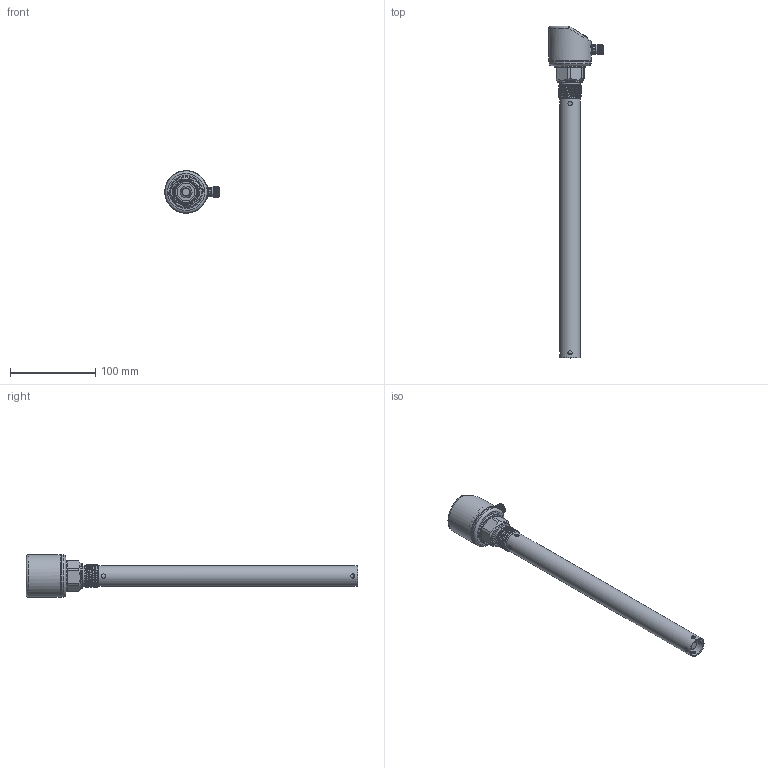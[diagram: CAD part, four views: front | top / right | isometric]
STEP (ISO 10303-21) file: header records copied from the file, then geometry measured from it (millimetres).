
FILE_DESCRIPTION (( 'STEP AP214' ), '1' );
FILE_NAME ('3-4数显电容-300（同轴）.STEP', '2025-03-11T06:17:42', ( '' ), ( '' ), 'SwSTEP 2.0', 'SolidWorks 2020', '' );
FILE_SCHEMA (( 'AUTOMOTIVE_DESIGN' ));
Length unit declared in the file: millimetre
Products named in the file (9): 抻芛ㄗ蟀哿講ㄘ; 偌瑩簽; 肮粣奪; 滅阨諉芛褲极1; 3-4数显电容-300（同轴）; 恦謫抻芛5; PVC躇猾菜; 揤薯奻裔; 揤薯珆尨欶
Assembly tree (10 placements, depth 2):
  3-4数显电容-300（同轴）
    揤薯奻裔
    揤薯珆尨欶
    滅阨諉芛褲极1
    偌瑩簽  x3
    PVC躇猾菜
    恦謫抻芛5
    抻芛ㄗ蟀哿講ㄘ
    肮粣奪
Bounding box: 64 x 390.1 x 50 mm (x, y, z)
Volume: 93744 mm3; surface area: 85794.4 mm2
Topology: 10 solids, 10 shells, 318 faces, 752 edges, 486 vertices
Faces by surface type: plane 128, cylinder 118, cone 44, bspline 13, torus 11, sphere 4
Full cylindrical faces by diameter (mm): 1 x4, 1.2 x3, 1.8 x1, 2 x3, 2.5 x6, 2.8 x1, 4.3 x3, 4.5 x6, 5 x8, 6 x1, 7.2 x1, 8 x1, 8.5 x1, 9.75 x1, 10 x1, 10.49 x1, 10.5 x1, 10.8 x1, 10.9 x1, 11 x2, 12 x1, 21 x2, 24 x2, 29.5 x1, 35 x1, 37 x1, 43.9 x1, 45.4 x1, 45.6 x2, 48 x3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
Entity records: 14721 total; most frequent: CARTESIAN_POINT 7955, DIRECTION 1314, ORIENTED_EDGE 1104, EDGE_CURVE 552, AXIS2_PLACEMENT_3D 536, EDGE_LOOP 479, VERTEX_POINT 411, FACE_OUTER_BOUND 359
